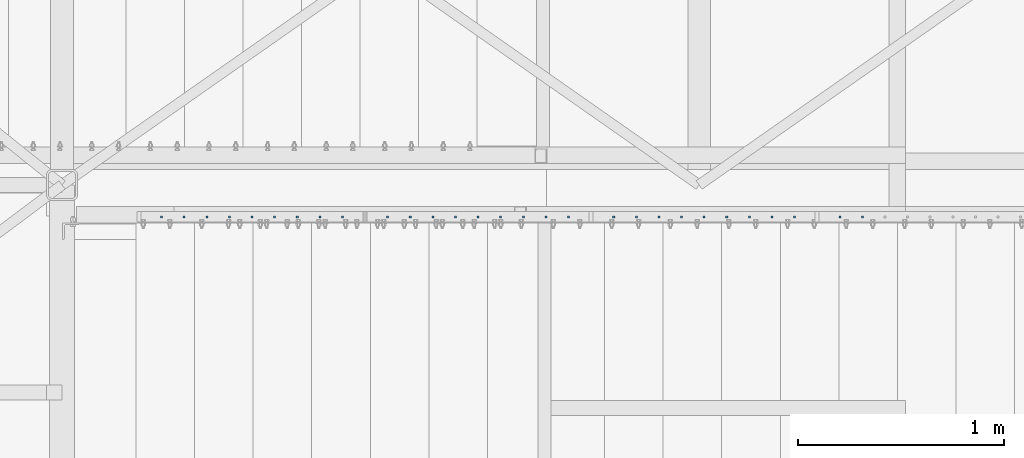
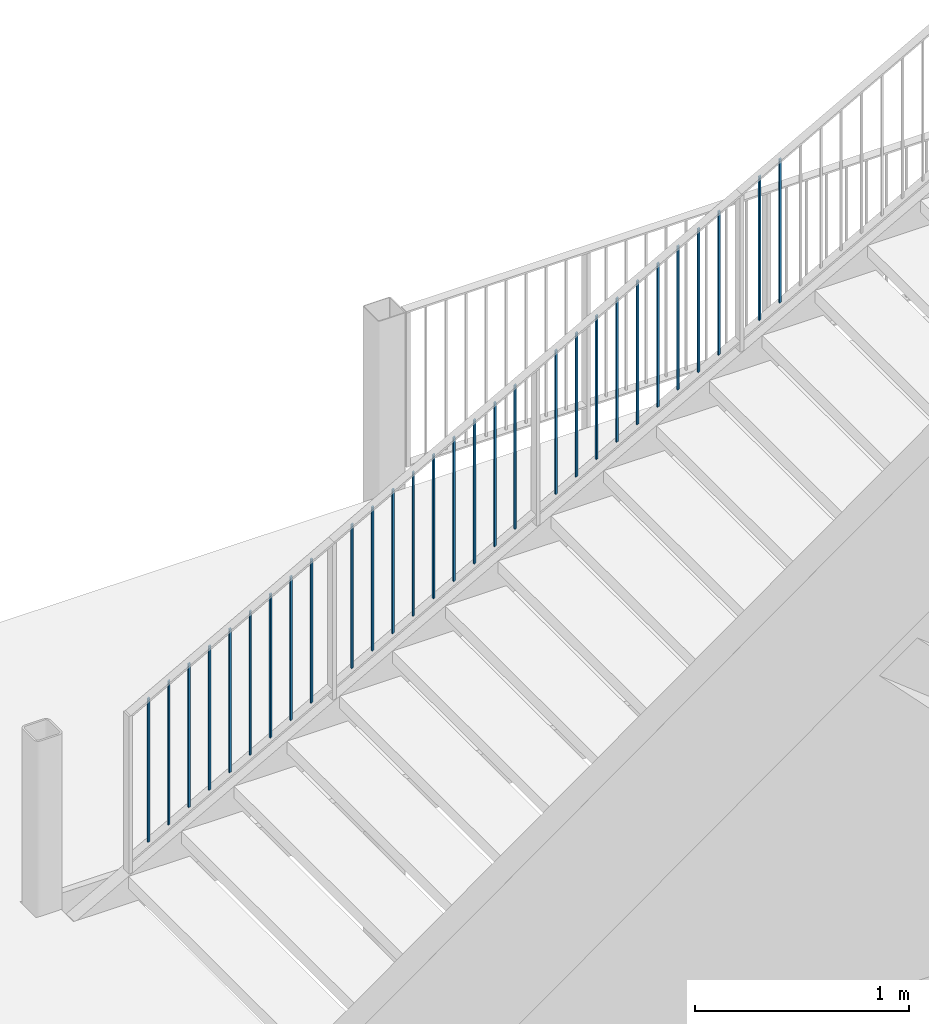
# One storey, part 50 of 78: 29 beams, 1 element without a shape of its own.
"""IFC2X3 building model written with IfcOpenShell, lengths in millimetres."""

from ifc_helpers import new_model, si_unit, frame, origin_with_axes, origin_2d_with_axis, place, context, subcontext, project, spatial, rectangle, extrude, clip, halfspace, material, type_object, element, aggregate, save


model = new_model("IFC2X3")

# Units and contexts
model_context = context("Model", 3, precision=1e-05, world=origin_with_axes())
body_context = subcontext(model_context, "Body", "Model", "MODEL_VIEW")
ifc_project = project(units=[si_unit("LENGTHUNIT", "METRE", prefix="MILLI"), si_unit("AREAUNIT", "SQUARE_METRE"), si_unit("VOLUMEUNIT", "CUBIC_METRE"), si_unit("MASSUNIT", "GRAM", prefix="KILO"), si_unit("TIMEUNIT", "SECOND"), si_unit("PLANEANGLEUNIT", "RADIAN"), si_unit("SOLIDANGLEUNIT", "STERADIAN"), si_unit("THERMODYNAMICTEMPERATUREUNIT", "DEGREE_CELSIUS"), si_unit("LUMINOUSINTENSITYUNIT", "LUMEN")], contexts=[model_context])

# Site, building, storey
site_placement = place(None, origin_with_axes())
site = spatial("IfcSite", under=ifc_project, at=site_placement, Name="Site", CompositionType="ELEMENT")
building_placement = place(site_placement, origin_with_axes())
building = spatial("IfcBuilding", under=site, at=building_placement, Name="Undefined", CompositionType="ELEMENT")
storey_placement = place(building_placement, origin_with_axes())
storey = spatial("IfcBuildingStorey", under=building, at=storey_placement, Name="Undefined", CompositionType="ELEMENT", Elevation=0.0)

# Assembly, beams
assembly_placement = place(storey_placement, origin_with_axes())
assembly = element("IfcElementAssembly", 1, at=assembly_placement, inside=storey, Name="MAIN_COURANTE", AssemblyPlace="NOTDEFINED", PredefinedType="RIGID_FRAME")
ifc_material = material(Name="STEEL/S235JR")
beam_type = type_object("IfcBeamType", Name="PL10*10", PredefinedType="NOTDEFINED")
beam_1_placement = place(assembly_placement, frame((-4217.00571560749, 30592.9999997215, 157813.088076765), z_axis=(0.0, -1.0, 0.0), x_axis=(0.0, 0.0, -1.0)))
beam_1 = element("IfcBeam", 2, at=beam_1_placement, type_object=beam_type, material=ifc_material, Name="LISSE", ObjectType="PL10*10", context=body_context, shape_type="Clipping", body=[
    clip(clip(extrude(rectangle(XDim=10.0, YDim=10.0, at=origin_2d_with_axis()), frame((831.449999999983, 0.0, 0.0), z_axis=(-1.0, 0.0, 0.0), x_axis=(0.0, -1.0, 0.0)), (0.0, 0.0, 1.0), 831.45), halfspace(frame((825.737291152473, 9.09494701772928e-13, 1005.0), z_axis=(0.87524153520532, 0.48368611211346, 0.0), x_axis=(-0.483686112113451, 0.875241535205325, 0.0)), False)), halfspace(frame((5.71270869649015, 9.09494701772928e-13, 1005.0), z_axis=(-0.875241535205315, -0.483686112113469, 0.0), x_axis=(0.48368611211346, -0.87524153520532, 0.0)), False)),
])
beam_2_placement = place(assembly_placement, frame((-4107.00571560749, 30592.9999997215, 157873.877550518), z_axis=(0.0, -1.0, 0.0), x_axis=(0.0, 0.0, -1.0)))
beam_2 = element("IfcBeam", 3, at=beam_2_placement, type_object=beam_type, material=ifc_material, Name="LISSE", ObjectType="PL10*10", context=body_context, shape_type="Clipping", body=[
    clip(clip(extrude(rectangle(XDim=10.0, YDim=10.0, at=origin_2d_with_axis()), frame((831.449999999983, 0.0, 0.0), z_axis=(-1.0, 0.0, 0.0), x_axis=(0.0, -1.0, 0.0)), (0.0, 0.0, 1.0), 831.45), halfspace(frame((825.737291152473, 9.09494701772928e-13, 1005.0), z_axis=(0.87524153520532, 0.48368611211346, 0.0), x_axis=(-0.483686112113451, 0.875241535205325, 0.0)), False)), halfspace(frame((5.71270869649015, 9.09494701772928e-13, 1005.0), z_axis=(-0.875241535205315, -0.483686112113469, 0.0), x_axis=(0.48368611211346, -0.87524153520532, 0.0)), False)),
])
beam_3_placement = place(assembly_placement, frame((-3997.00571560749, 30592.9999997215, 157934.667024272), z_axis=(0.0, -1.0, 0.0), x_axis=(0.0, 0.0, -1.0)))
beam_3 = element("IfcBeam", 4, at=beam_3_placement, type_object=beam_type, material=ifc_material, Name="LISSE", ObjectType="PL10*10", context=body_context, shape_type="Clipping", body=[
    clip(clip(extrude(rectangle(XDim=10.0, YDim=10.0, at=origin_2d_with_axis()), frame((831.449999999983, 0.0, 0.0), z_axis=(-1.0, 0.0, 0.0), x_axis=(0.0, -1.0, 0.0)), (0.0, 0.0, 1.0), 831.45), halfspace(frame((825.737291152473, 9.09494701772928e-13, 1005.0), z_axis=(0.87524153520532, 0.48368611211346, 0.0), x_axis=(-0.483686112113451, 0.875241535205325, 0.0)), False)), halfspace(frame((5.71270869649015, 9.09494701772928e-13, 1005.0), z_axis=(-0.875241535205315, -0.483686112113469, 0.0), x_axis=(0.48368611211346, -0.87524153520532, 0.0)), False)),
])
beam_4_placement = place(assembly_placement, frame((-3887.00571560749, 30592.9999997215, 157995.456498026), z_axis=(0.0, -1.0, 0.0), x_axis=(0.0, 0.0, -1.0)))
beam_4 = element("IfcBeam", 5, at=beam_4_placement, type_object=beam_type, material=ifc_material, Name="LISSE", ObjectType="PL10*10", context=body_context, shape_type="Clipping", body=[
    clip(clip(extrude(rectangle(XDim=10.0, YDim=10.0, at=origin_2d_with_axis()), frame((831.449999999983, 0.0, 0.0), z_axis=(-1.0, 0.0, 0.0), x_axis=(0.0, -1.0, 0.0)), (0.0, 0.0, 1.0), 831.45), halfspace(frame((825.737291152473, 9.09494701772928e-13, 1005.0), z_axis=(0.87524153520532, 0.48368611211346, 0.0), x_axis=(-0.483686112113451, 0.875241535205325, 0.0)), False)), halfspace(frame((5.71270869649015, 9.09494701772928e-13, 1005.0), z_axis=(-0.875241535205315, -0.483686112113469, 0.0), x_axis=(0.48368611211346, -0.87524153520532, 0.0)), False)),
])
beam_5_placement = place(assembly_placement, frame((-3777.00571560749, 30592.9999997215, 158056.245971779), z_axis=(0.0, -1.0, 0.0), x_axis=(0.0, 0.0, -1.0)))
beam_5 = element("IfcBeam", 6, at=beam_5_placement, type_object=beam_type, material=ifc_material, Name="LISSE", ObjectType="PL10*10", context=body_context, shape_type="Clipping", body=[
    clip(clip(extrude(rectangle(XDim=10.0, YDim=10.0, at=origin_2d_with_axis()), frame((831.449999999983, 0.0, 0.0), z_axis=(-1.0, 0.0, 0.0), x_axis=(0.0, -1.0, 0.0)), (0.0, 0.0, 1.0), 831.45), halfspace(frame((825.737291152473, 9.09494701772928e-13, 1005.0), z_axis=(0.87524153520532, 0.48368611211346, 0.0), x_axis=(-0.483686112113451, 0.875241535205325, 0.0)), False)), halfspace(frame((5.71270869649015, 9.09494701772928e-13, 1005.0), z_axis=(-0.875241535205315, -0.483686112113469, 0.0), x_axis=(0.48368611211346, -0.87524153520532, 0.0)), False)),
])
beam_6_placement = place(assembly_placement, frame((-3667.00571560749, 30592.9999997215, 158117.035445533), z_axis=(0.0, -1.0, 0.0), x_axis=(0.0, 0.0, -1.0)))
beam_6 = element("IfcBeam", 7, at=beam_6_placement, type_object=beam_type, material=ifc_material, Name="LISSE", ObjectType="PL10*10", context=body_context, shape_type="Clipping", body=[
    clip(clip(extrude(rectangle(XDim=10.0, YDim=10.0, at=origin_2d_with_axis()), frame((831.449999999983, 0.0, 0.0), z_axis=(-1.0, 0.0, 0.0), x_axis=(0.0, -1.0, 0.0)), (0.0, 0.0, 1.0), 831.45), halfspace(frame((825.737291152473, 9.09494701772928e-13, 1005.0), z_axis=(0.87524153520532, 0.48368611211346, 0.0), x_axis=(-0.483686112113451, 0.875241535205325, 0.0)), False)), halfspace(frame((5.71270869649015, 9.09494701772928e-13, 1005.0), z_axis=(-0.875241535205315, -0.483686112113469, 0.0), x_axis=(0.48368611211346, -0.87524153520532, 0.0)), False)),
])
beam_7_placement = place(assembly_placement, frame((-3557.00571560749, 30592.9999997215, 158177.824919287), z_axis=(0.0, -1.0, 0.0), x_axis=(0.0, 0.0, -1.0)))
beam_7 = element("IfcBeam", 8, at=beam_7_placement, type_object=beam_type, material=ifc_material, Name="LISSE", ObjectType="PL10*10", context=body_context, shape_type="Clipping", body=[
    clip(clip(extrude(rectangle(XDim=10.0, YDim=10.0, at=origin_2d_with_axis()), frame((831.449999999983, 0.0, 0.0), z_axis=(-1.0, 0.0, 0.0), x_axis=(0.0, -1.0, 0.0)), (0.0, 0.0, 1.0), 831.45), halfspace(frame((825.737291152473, 9.09494701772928e-13, 1005.0), z_axis=(0.87524153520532, 0.48368611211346, 0.0), x_axis=(-0.483686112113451, 0.875241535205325, 0.0)), False)), halfspace(frame((5.71270869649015, 9.09494701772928e-13, 1005.0), z_axis=(-0.875241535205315, -0.483686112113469, 0.0), x_axis=(0.48368611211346, -0.87524153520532, 0.0)), False)),
])
beam_8_placement = place(assembly_placement, frame((-3447.00571560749, 30592.9999997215, 158238.61439304), z_axis=(0.0, -1.0, 0.0), x_axis=(0.0, 0.0, -1.0)))
beam_8 = element("IfcBeam", 9, at=beam_8_placement, type_object=beam_type, material=ifc_material, Name="LISSE", ObjectType="PL10*10", context=body_context, shape_type="Clipping", body=[
    clip(clip(extrude(rectangle(XDim=10.0, YDim=10.0, at=origin_2d_with_axis()), frame((831.449999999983, 0.0, 0.0), z_axis=(-1.0, 0.0, 0.0), x_axis=(0.0, -1.0, 0.0)), (0.0, 0.0, 1.0), 831.45), halfspace(frame((825.737291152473, 9.09494701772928e-13, 1005.0), z_axis=(0.87524153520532, 0.48368611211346, 0.0), x_axis=(-0.483686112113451, 0.875241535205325, 0.0)), False)), halfspace(frame((5.71270869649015, 9.09494701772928e-13, 1005.0), z_axis=(-0.875241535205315, -0.483686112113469, 0.0), x_axis=(0.48368611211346, -0.87524153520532, 0.0)), False)),
])
beam_9_placement = place(assembly_placement, frame((-3337.00571560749, 30592.9999997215, 158299.403866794), z_axis=(0.0, -1.0, 0.0), x_axis=(0.0, 0.0, -1.0)))
beam_9 = element("IfcBeam", 10, at=beam_9_placement, type_object=beam_type, material=ifc_material, Name="LISSE", ObjectType="PL10*10", context=body_context, shape_type="Clipping", body=[
    clip(clip(extrude(rectangle(XDim=10.0, YDim=10.0, at=origin_2d_with_axis()), frame((831.449999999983, 0.0, 0.0), z_axis=(-1.0, 0.0, 0.0), x_axis=(0.0, -1.0, 0.0)), (0.0, 0.0, 1.0), 831.45), halfspace(frame((825.737291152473, 9.09494701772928e-13, 1005.0), z_axis=(0.87524153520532, 0.48368611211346, 0.0), x_axis=(-0.483686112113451, 0.875241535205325, 0.0)), False)), halfspace(frame((5.71270869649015, 9.09494701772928e-13, 1005.0), z_axis=(-0.875241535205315, -0.483686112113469, 0.0), x_axis=(0.48368611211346, -0.87524153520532, 0.0)), False)),
])
beam_10_placement = place(assembly_placement, frame((-3117.0057156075, 30592.9999997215, 158420.982814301), z_axis=(0.0, -1.0, 0.0), x_axis=(0.0, 0.0, -1.0)))
beam_10 = element("IfcBeam", 11, at=beam_10_placement, type_object=beam_type, material=ifc_material, Name="LISSE", ObjectType="PL10*10", context=body_context, shape_type="Clipping", body=[
    clip(clip(extrude(rectangle(XDim=10.0, YDim=10.0, at=origin_2d_with_axis()), frame((831.449999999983, 0.0, 0.0), z_axis=(-1.0, 0.0, 0.0), x_axis=(0.0, -1.0, 0.0)), (0.0, 0.0, 1.0), 831.45), halfspace(frame((825.737291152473, 9.09494701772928e-13, 1005.0), z_axis=(0.87524153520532, 0.48368611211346, 0.0), x_axis=(-0.483686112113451, 0.875241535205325, 0.0)), False)), halfspace(frame((5.71270869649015, 9.09494701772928e-13, 1005.0), z_axis=(-0.875241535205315, -0.483686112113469, 0.0), x_axis=(0.48368611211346, -0.87524153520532, 0.0)), False)),
])
beam_11_placement = place(assembly_placement, frame((-3007.0057156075, 30592.9999997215, 158481.772288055), z_axis=(0.0, -1.0, 0.0), x_axis=(0.0, 0.0, -1.0)))
beam_11 = element("IfcBeam", 12, at=beam_11_placement, type_object=beam_type, material=ifc_material, Name="LISSE", ObjectType="PL10*10", context=body_context, shape_type="Clipping", body=[
    clip(clip(extrude(rectangle(XDim=10.0, YDim=10.0, at=origin_2d_with_axis()), frame((831.449999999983, 0.0, 0.0), z_axis=(-1.0, 0.0, 0.0), x_axis=(0.0, -1.0, 0.0)), (0.0, 0.0, 1.0), 831.45), halfspace(frame((825.737291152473, 9.09494701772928e-13, 1005.0), z_axis=(0.87524153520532, 0.48368611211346, 0.0), x_axis=(-0.483686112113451, 0.875241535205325, 0.0)), False)), halfspace(frame((5.71270869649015, 9.09494701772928e-13, 1005.0), z_axis=(-0.875241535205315, -0.483686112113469, 0.0), x_axis=(0.48368611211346, -0.87524153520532, 0.0)), False)),
])
beam_12_placement = place(assembly_placement, frame((-2897.0057156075, 30592.9999997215, 158542.561761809), z_axis=(0.0, -1.0, 0.0), x_axis=(0.0, 0.0, -1.0)))
beam_12 = element("IfcBeam", 13, at=beam_12_placement, type_object=beam_type, material=ifc_material, Name="LISSE", ObjectType="PL10*10", context=body_context, shape_type="Clipping", body=[
    clip(clip(extrude(rectangle(XDim=10.0, YDim=10.0, at=origin_2d_with_axis()), frame((831.449999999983, 0.0, 0.0), z_axis=(-1.0, 0.0, 0.0), x_axis=(0.0, -1.0, 0.0)), (0.0, 0.0, 1.0), 831.45), halfspace(frame((825.737291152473, 9.09494701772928e-13, 1005.0), z_axis=(0.87524153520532, 0.48368611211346, 0.0), x_axis=(-0.483686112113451, 0.875241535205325, 0.0)), False)), halfspace(frame((5.71270869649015, 9.09494701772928e-13, 1005.0), z_axis=(-0.875241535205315, -0.483686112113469, 0.0), x_axis=(0.48368611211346, -0.87524153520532, 0.0)), False)),
])
beam_13_placement = place(assembly_placement, frame((-2787.0057156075, 30592.9999997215, 158603.351235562), z_axis=(0.0, -1.0, 0.0), x_axis=(0.0, 0.0, -1.0)))
beam_13 = element("IfcBeam", 14, at=beam_13_placement, type_object=beam_type, material=ifc_material, Name="LISSE", ObjectType="PL10*10", context=body_context, shape_type="Clipping", body=[
    clip(clip(extrude(rectangle(XDim=10.0, YDim=10.0, at=origin_2d_with_axis()), frame((831.449999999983, 0.0, 0.0), z_axis=(-1.0, 0.0, 0.0), x_axis=(0.0, -1.0, 0.0)), (0.0, 0.0, 1.0), 831.45), halfspace(frame((825.737291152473, 9.09494701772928e-13, 1005.0), z_axis=(0.87524153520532, 0.48368611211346, 0.0), x_axis=(-0.483686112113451, 0.875241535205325, 0.0)), False)), halfspace(frame((5.71270869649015, 9.09494701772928e-13, 1005.0), z_axis=(-0.875241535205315, -0.483686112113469, 0.0), x_axis=(0.48368611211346, -0.87524153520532, 0.0)), False)),
])
beam_14_placement = place(assembly_placement, frame((-2677.0057156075, 30592.9999997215, 158664.140709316), z_axis=(0.0, -1.0, 0.0), x_axis=(0.0, 0.0, -1.0)))
beam_14 = element("IfcBeam", 15, at=beam_14_placement, type_object=beam_type, material=ifc_material, Name="LISSE", ObjectType="PL10*10", context=body_context, shape_type="Clipping", body=[
    clip(clip(extrude(rectangle(XDim=10.0, YDim=10.0, at=origin_2d_with_axis()), frame((831.449999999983, 0.0, 0.0), z_axis=(-1.0, 0.0, 0.0), x_axis=(0.0, -1.0, 0.0)), (0.0, 0.0, 1.0), 831.45), halfspace(frame((825.737291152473, 9.09494701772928e-13, 1005.0), z_axis=(0.87524153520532, 0.48368611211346, 0.0), x_axis=(-0.483686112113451, 0.875241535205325, 0.0)), False)), halfspace(frame((5.71270869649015, 9.09494701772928e-13, 1005.0), z_axis=(-0.875241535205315, -0.483686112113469, 0.0), x_axis=(0.48368611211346, -0.87524153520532, 0.0)), False)),
])
beam_15_placement = place(assembly_placement, frame((-2567.0057156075, 30592.9999997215, 158724.93018307), z_axis=(0.0, -1.0, 0.0), x_axis=(0.0, 0.0, -1.0)))
beam_15 = element("IfcBeam", 16, at=beam_15_placement, type_object=beam_type, material=ifc_material, Name="LISSE", ObjectType="PL10*10", context=body_context, shape_type="Clipping", body=[
    clip(clip(extrude(rectangle(XDim=10.0, YDim=10.0, at=origin_2d_with_axis()), frame((831.449999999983, 0.0, 0.0), z_axis=(-1.0, 0.0, 0.0), x_axis=(0.0, -1.0, 0.0)), (0.0, 0.0, 1.0), 831.45), halfspace(frame((825.737291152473, 9.09494701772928e-13, 1005.0), z_axis=(0.87524153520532, 0.48368611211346, 0.0), x_axis=(-0.483686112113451, 0.875241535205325, 0.0)), False)), halfspace(frame((5.71270869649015, 9.09494701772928e-13, 1005.0), z_axis=(-0.875241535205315, -0.483686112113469, 0.0), x_axis=(0.48368611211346, -0.87524153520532, 0.0)), False)),
])
beam_16_placement = place(assembly_placement, frame((-2457.0057156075, 30592.9999997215, 158785.719656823), z_axis=(0.0, -1.0, 0.0), x_axis=(0.0, 0.0, -1.0)))
beam_16 = element("IfcBeam", 17, at=beam_16_placement, type_object=beam_type, material=ifc_material, Name="LISSE", ObjectType="PL10*10", context=body_context, shape_type="Clipping", body=[
    clip(clip(extrude(rectangle(XDim=10.0, YDim=10.0, at=origin_2d_with_axis()), frame((831.449999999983, 0.0, 0.0), z_axis=(-1.0, 0.0, 0.0), x_axis=(0.0, -1.0, 0.0)), (0.0, 0.0, 1.0), 831.45), halfspace(frame((825.737291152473, 9.09494701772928e-13, 1005.0), z_axis=(0.87524153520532, 0.48368611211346, 0.0), x_axis=(-0.483686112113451, 0.875241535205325, 0.0)), False)), halfspace(frame((5.71270869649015, 9.09494701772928e-13, 1005.0), z_axis=(-0.875241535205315, -0.483686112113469, 0.0), x_axis=(0.48368611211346, -0.87524153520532, 0.0)), False)),
])
beam_17_placement = place(assembly_placement, frame((-2347.0057156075, 30592.9999997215, 158846.509130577), z_axis=(0.0, -1.0, 0.0), x_axis=(0.0, 0.0, -1.0)))
beam_17 = element("IfcBeam", 18, at=beam_17_placement, type_object=beam_type, material=ifc_material, Name="LISSE", ObjectType="PL10*10", context=body_context, shape_type="Clipping", body=[
    clip(clip(extrude(rectangle(XDim=10.0, YDim=10.0, at=origin_2d_with_axis()), frame((831.449999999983, 0.0, 0.0), z_axis=(-1.0, 0.0, 0.0), x_axis=(0.0, -1.0, 0.0)), (0.0, 0.0, 1.0), 831.45), halfspace(frame((825.737291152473, 9.09494701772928e-13, 1005.0), z_axis=(0.87524153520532, 0.48368611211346, 0.0), x_axis=(-0.483686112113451, 0.875241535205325, 0.0)), False)), halfspace(frame((5.71270869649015, 9.09494701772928e-13, 1005.0), z_axis=(-0.875241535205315, -0.483686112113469, 0.0), x_axis=(0.48368611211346, -0.87524153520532, 0.0)), False)),
])
beam_18_placement = place(assembly_placement, frame((-2237.0057156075, 30592.9999997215, 158907.298604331), z_axis=(0.0, -1.0, 0.0), x_axis=(0.0, 0.0, -1.0)))
beam_18 = element("IfcBeam", 19, at=beam_18_placement, type_object=beam_type, material=ifc_material, Name="LISSE", ObjectType="PL10*10", context=body_context, shape_type="Clipping", body=[
    clip(clip(extrude(rectangle(XDim=10.0, YDim=10.0, at=origin_2d_with_axis()), frame((831.449999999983, 0.0, 0.0), z_axis=(-1.0, 0.0, 0.0), x_axis=(0.0, -1.0, 0.0)), (0.0, 0.0, 1.0), 831.45), halfspace(frame((825.737291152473, 9.09494701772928e-13, 1005.0), z_axis=(0.87524153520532, 0.48368611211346, 0.0), x_axis=(-0.483686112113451, 0.875241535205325, 0.0)), False)), halfspace(frame((5.71270869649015, 9.09494701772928e-13, 1005.0), z_axis=(-0.875241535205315, -0.483686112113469, 0.0), x_axis=(0.48368611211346, -0.87524153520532, 0.0)), False)),
])
beam_19_placement = place(assembly_placement, frame((-2017.0057156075, 30592.9999997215, 159028.877551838), z_axis=(0.0, -1.0, 0.0), x_axis=(0.0, 0.0, -1.0)))
beam_19 = element("IfcBeam", 20, at=beam_19_placement, type_object=beam_type, material=ifc_material, Name="LISSE", ObjectType="PL10*10", context=body_context, shape_type="Clipping", body=[
    clip(clip(extrude(rectangle(XDim=10.0, YDim=10.0, at=origin_2d_with_axis()), frame((831.449999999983, 0.0, 0.0), z_axis=(-1.0, 0.0, 0.0), x_axis=(0.0, -1.0, 0.0)), (0.0, 0.0, 1.0), 831.45), halfspace(frame((825.737291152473, 9.09494701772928e-13, 1005.0), z_axis=(0.87524153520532, 0.48368611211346, 0.0), x_axis=(-0.483686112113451, 0.875241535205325, 0.0)), False)), halfspace(frame((5.71270869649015, 9.09494701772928e-13, 1005.0), z_axis=(-0.875241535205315, -0.483686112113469, 0.0), x_axis=(0.48368611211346, -0.87524153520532, 0.0)), False)),
])
beam_20_placement = place(assembly_placement, frame((-1907.0057156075, 30592.9999997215, 159089.667025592), z_axis=(0.0, -1.0, 0.0), x_axis=(0.0, 0.0, -1.0)))
beam_20 = element("IfcBeam", 21, at=beam_20_placement, type_object=beam_type, material=ifc_material, Name="LISSE", ObjectType="PL10*10", context=body_context, shape_type="Clipping", body=[
    clip(clip(extrude(rectangle(XDim=10.0, YDim=10.0, at=origin_2d_with_axis()), frame((831.449999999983, 0.0, 0.0), z_axis=(-1.0, 0.0, 0.0), x_axis=(0.0, -1.0, 0.0)), (0.0, 0.0, 1.0), 831.45), halfspace(frame((825.737291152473, 9.09494701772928e-13, 1005.0), z_axis=(0.87524153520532, 0.48368611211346, 0.0), x_axis=(-0.483686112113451, 0.875241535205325, 0.0)), False)), halfspace(frame((5.71270869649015, 9.09494701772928e-13, 1005.0), z_axis=(-0.875241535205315, -0.483686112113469, 0.0), x_axis=(0.48368611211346, -0.87524153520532, 0.0)), False)),
])
beam_21_placement = place(assembly_placement, frame((-1797.0057156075, 30592.9999997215, 159150.456499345), z_axis=(0.0, -1.0, 0.0), x_axis=(0.0, 0.0, -1.0)))
beam_21 = element("IfcBeam", 22, at=beam_21_placement, type_object=beam_type, material=ifc_material, Name="LISSE", ObjectType="PL10*10", context=body_context, shape_type="Clipping", body=[
    clip(clip(extrude(rectangle(XDim=10.0, YDim=10.0, at=origin_2d_with_axis()), frame((831.449999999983, 0.0, 0.0), z_axis=(-1.0, 0.0, 0.0), x_axis=(0.0, -1.0, 0.0)), (0.0, 0.0, 1.0), 831.45), halfspace(frame((825.737291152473, 9.09494701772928e-13, 1005.0), z_axis=(0.87524153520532, 0.48368611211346, 0.0), x_axis=(-0.483686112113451, 0.875241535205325, 0.0)), False)), halfspace(frame((5.71270869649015, 9.09494701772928e-13, 1005.0), z_axis=(-0.875241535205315, -0.483686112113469, 0.0), x_axis=(0.48368611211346, -0.87524153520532, 0.0)), False)),
])
beam_22_placement = place(assembly_placement, frame((-1687.0057156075, 30592.9999997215, 159211.245973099), z_axis=(0.0, -1.0, 0.0), x_axis=(0.0, 0.0, -1.0)))
beam_22 = element("IfcBeam", 23, at=beam_22_placement, type_object=beam_type, material=ifc_material, Name="LISSE", ObjectType="PL10*10", context=body_context, shape_type="Clipping", body=[
    clip(clip(extrude(rectangle(XDim=10.0, YDim=10.0, at=origin_2d_with_axis()), frame((831.449999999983, 0.0, 0.0), z_axis=(-1.0, 0.0, 0.0), x_axis=(0.0, -1.0, 0.0)), (0.0, 0.0, 1.0), 831.45), halfspace(frame((825.737291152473, 9.09494701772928e-13, 1005.0), z_axis=(0.87524153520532, 0.48368611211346, 0.0), x_axis=(-0.483686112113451, 0.875241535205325, 0.0)), False)), halfspace(frame((5.71270869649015, 9.09494701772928e-13, 1005.0), z_axis=(-0.875241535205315, -0.483686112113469, 0.0), x_axis=(0.48368611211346, -0.87524153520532, 0.0)), False)),
])
beam_23_placement = place(assembly_placement, frame((-1577.0057156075, 30592.9999997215, 159272.035446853), z_axis=(0.0, -1.0, 0.0), x_axis=(0.0, 0.0, -1.0)))
beam_23 = element("IfcBeam", 24, at=beam_23_placement, type_object=beam_type, material=ifc_material, Name="LISSE", ObjectType="PL10*10", context=body_context, shape_type="Clipping", body=[
    clip(clip(extrude(rectangle(XDim=10.0, YDim=10.0, at=origin_2d_with_axis()), frame((831.449999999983, 0.0, 0.0), z_axis=(-1.0, 0.0, 0.0), x_axis=(0.0, -1.0, 0.0)), (0.0, 0.0, 1.0), 831.45), halfspace(frame((825.737291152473, 9.09494701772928e-13, 1005.0), z_axis=(0.87524153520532, 0.48368611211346, 0.0), x_axis=(-0.483686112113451, 0.875241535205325, 0.0)), False)), halfspace(frame((5.71270869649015, 9.09494701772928e-13, 1005.0), z_axis=(-0.875241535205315, -0.483686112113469, 0.0), x_axis=(0.48368611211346, -0.87524153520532, 0.0)), False)),
])
beam_24_placement = place(assembly_placement, frame((-1467.0057156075, 30592.9999997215, 159332.824920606), z_axis=(0.0, -1.0, 0.0), x_axis=(0.0, 0.0, -1.0)))
beam_24 = element("IfcBeam", 25, at=beam_24_placement, type_object=beam_type, material=ifc_material, Name="LISSE", ObjectType="PL10*10", context=body_context, shape_type="Clipping", body=[
    clip(clip(extrude(rectangle(XDim=10.0, YDim=10.0, at=origin_2d_with_axis()), frame((831.449999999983, 0.0, 0.0), z_axis=(-1.0, 0.0, 0.0), x_axis=(0.0, -1.0, 0.0)), (0.0, 0.0, 1.0), 831.45), halfspace(frame((825.737291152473, 9.09494701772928e-13, 1005.0), z_axis=(0.87524153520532, 0.48368611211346, 0.0), x_axis=(-0.483686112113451, 0.875241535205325, 0.0)), False)), halfspace(frame((5.71270869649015, 9.09494701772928e-13, 1005.0), z_axis=(-0.875241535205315, -0.483686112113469, 0.0), x_axis=(0.48368611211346, -0.87524153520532, 0.0)), False)),
])
beam_25_placement = place(assembly_placement, frame((-1357.0057156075, 30592.9999997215, 159393.61439436), z_axis=(0.0, -1.0, 0.0), x_axis=(0.0, 0.0, -1.0)))
beam_25 = element("IfcBeam", 26, at=beam_25_placement, type_object=beam_type, material=ifc_material, Name="LISSE", ObjectType="PL10*10", context=body_context, shape_type="Clipping", body=[
    clip(clip(extrude(rectangle(XDim=10.0, YDim=10.0, at=origin_2d_with_axis()), frame((831.449999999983, 0.0, 0.0), z_axis=(-1.0, 0.0, 0.0), x_axis=(0.0, -1.0, 0.0)), (0.0, 0.0, 1.0), 831.45), halfspace(frame((825.737291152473, 9.09494701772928e-13, 1005.0), z_axis=(0.87524153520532, 0.48368611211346, 0.0), x_axis=(-0.483686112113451, 0.875241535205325, 0.0)), False)), halfspace(frame((5.71270869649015, 9.09494701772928e-13, 1005.0), z_axis=(-0.875241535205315, -0.483686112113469, 0.0), x_axis=(0.48368611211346, -0.87524153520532, 0.0)), False)),
])
beam_26_placement = place(assembly_placement, frame((-1247.0057156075, 30592.9999997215, 159454.403868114), z_axis=(0.0, -1.0, 0.0), x_axis=(0.0, 0.0, -1.0)))
beam_26 = element("IfcBeam", 27, at=beam_26_placement, type_object=beam_type, material=ifc_material, Name="LISSE", ObjectType="PL10*10", context=body_context, shape_type="Clipping", body=[
    clip(clip(extrude(rectangle(XDim=10.0, YDim=10.0, at=origin_2d_with_axis()), frame((831.449999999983, 0.0, 0.0), z_axis=(-1.0, 0.0, 0.0), x_axis=(0.0, -1.0, 0.0)), (0.0, 0.0, 1.0), 831.45), halfspace(frame((825.737291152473, 9.09494701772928e-13, 1005.0), z_axis=(0.87524153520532, 0.48368611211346, 0.0), x_axis=(-0.483686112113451, 0.875241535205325, 0.0)), False)), halfspace(frame((5.71270869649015, 9.09494701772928e-13, 1005.0), z_axis=(-0.875241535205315, -0.483686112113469, 0.0), x_axis=(0.48368611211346, -0.87524153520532, 0.0)), False)),
])
beam_27_placement = place(assembly_placement, frame((-1137.0057156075, 30592.9999997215, 159515.193341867), z_axis=(0.0, -1.0, 0.0), x_axis=(0.0, 0.0, -1.0)))
beam_27 = element("IfcBeam", 28, at=beam_27_placement, type_object=beam_type, material=ifc_material, Name="LISSE", ObjectType="PL10*10", context=body_context, shape_type="Clipping", body=[
    clip(clip(extrude(rectangle(XDim=10.0, YDim=10.0, at=origin_2d_with_axis()), frame((831.449999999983, 0.0, 0.0), z_axis=(-1.0, 0.0, 0.0), x_axis=(0.0, -1.0, 0.0)), (0.0, 0.0, 1.0), 831.45), halfspace(frame((825.737291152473, 9.09494701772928e-13, 1005.0), z_axis=(0.87524153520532, 0.48368611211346, 0.0), x_axis=(-0.483686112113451, 0.875241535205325, 0.0)), False)), halfspace(frame((5.71270869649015, 9.09494701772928e-13, 1005.0), z_axis=(-0.875241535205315, -0.483686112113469, 0.0), x_axis=(0.48368611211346, -0.87524153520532, 0.0)), False)),
])
beam_28_placement = place(assembly_placement, frame((-917.005715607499, 30592.9999997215, 159636.772289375), z_axis=(0.0, -1.0, 0.0), x_axis=(0.0, 0.0, -1.0)))
beam_28 = element("IfcBeam", 29, at=beam_28_placement, type_object=beam_type, material=ifc_material, Name="LISSE", ObjectType="PL10*10", context=body_context, shape_type="Clipping", body=[
    clip(clip(extrude(rectangle(XDim=10.0, YDim=10.0, at=origin_2d_with_axis()), frame((831.449999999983, 0.0, 0.0), z_axis=(-1.0, 0.0, 0.0), x_axis=(0.0, -1.0, 0.0)), (0.0, 0.0, 1.0), 831.45), halfspace(frame((825.737291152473, 9.09494701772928e-13, 1005.0), z_axis=(0.87524153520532, 0.48368611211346, 0.0), x_axis=(-0.483686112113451, 0.875241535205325, 0.0)), False)), halfspace(frame((5.71270869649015, 9.09494701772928e-13, 1005.0), z_axis=(-0.875241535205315, -0.483686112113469, 0.0), x_axis=(0.48368611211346, -0.87524153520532, 0.0)), False)),
])
beam_29_placement = place(assembly_placement, frame((-807.005715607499, 30592.9999997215, 159697.561763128), z_axis=(0.0, -1.0, 0.0), x_axis=(0.0, 0.0, -1.0)))
beam_29 = element("IfcBeam", 30, at=beam_29_placement, type_object=beam_type, material=ifc_material, Name="LISSE", ObjectType="PL10*10", context=body_context, shape_type="Clipping", body=[
    clip(clip(extrude(rectangle(XDim=10.0, YDim=10.0, at=origin_2d_with_axis()), frame((831.449999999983, 0.0, 0.0), z_axis=(-1.0, 0.0, 0.0), x_axis=(0.0, -1.0, 0.0)), (0.0, 0.0, 1.0), 831.45), halfspace(frame((825.737291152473, 9.09494701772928e-13, 1005.0), z_axis=(0.87524153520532, 0.48368611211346, 0.0), x_axis=(-0.483686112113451, 0.875241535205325, 0.0)), False)), halfspace(frame((5.71270869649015, 9.09494701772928e-13, 1005.0), z_axis=(-0.875241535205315, -0.483686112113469, 0.0), x_axis=(0.48368611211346, -0.87524153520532, 0.0)), False)),
])
aggregate(assembly, [beam_1, beam_2, beam_3, beam_4, beam_5, beam_6, beam_7, beam_8, beam_9, beam_10, beam_11, beam_12, beam_13, beam_14, beam_15, beam_16, beam_17, beam_18, beam_19, beam_20, beam_21, beam_22, beam_23, beam_24, beam_25, beam_26, beam_27, beam_28, beam_29])

save(model, "model.ifc")
